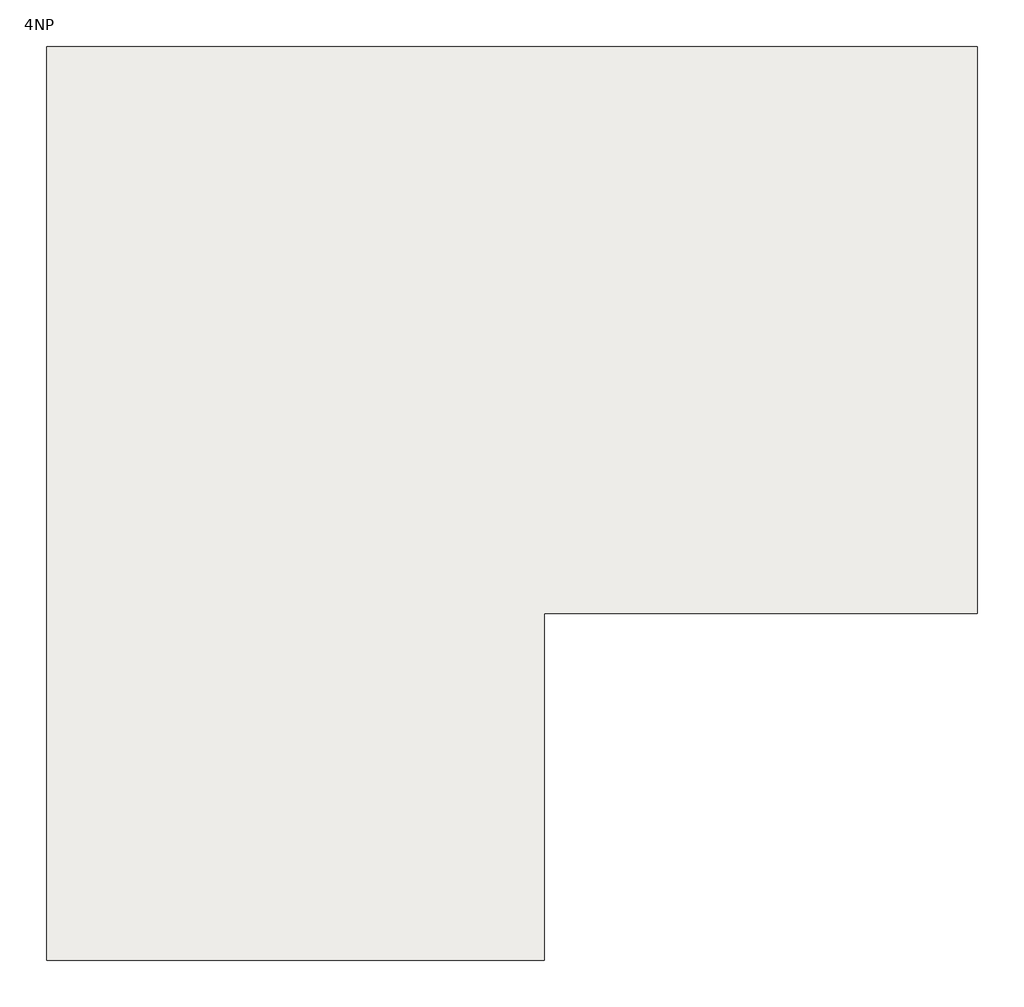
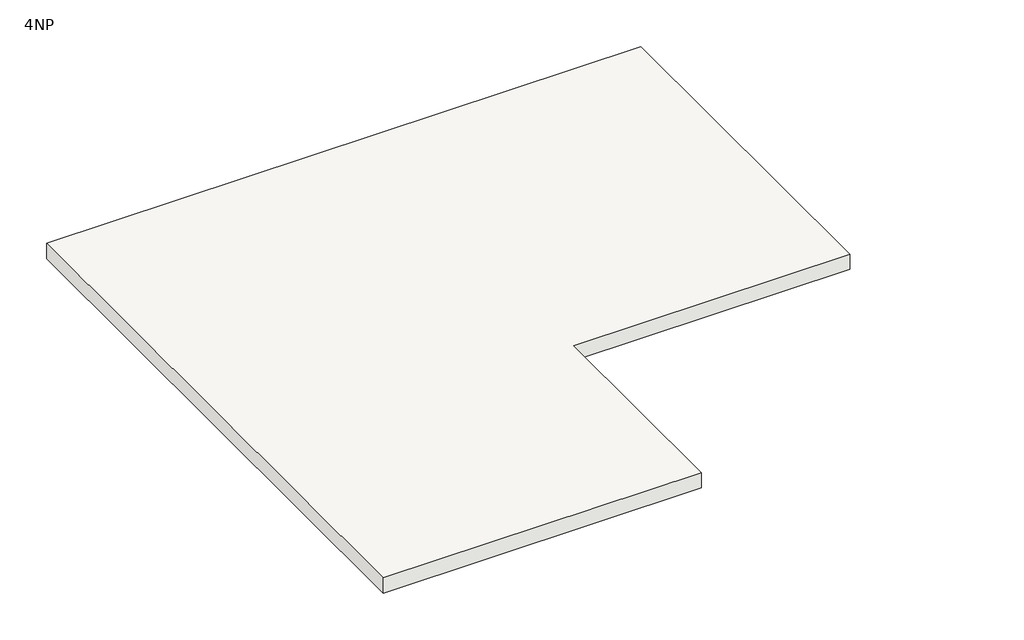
# One storey: 1 roof.
"""IFC4 building model written with IfcOpenShell, lengths in millimetres."""

from ifc_helpers import new_model, si_unit, frame, origin, place, context, project, spatial, polyline, outline, extrude, element, save

model = new_model("IFC4")

# Units and contexts
model_context = context("Model", 3, world=origin())
ifc_project = project(units=[si_unit("LENGTHUNIT", "METRE", prefix="MILLI")], contexts=[model_context])

# Site, building, storey
site = spatial("IfcSite", under=ifc_project)
building = spatial("IfcBuilding", under=site)
storey = spatial("IfcBuildingStorey", under=building, Name="4NP", Elevation=12000.0)

# Roof
placement = place(None, origin())
element("IfcRoof", 1, ObjectType="Generic - 400mm", at=placement, inside=storey, context=model_context, shape_type="SweptSolid", body=[
    extrude(outline(polyline([(-7530.3077176, 10061.6003657), (7219.6922824, 10061.6003657), (7219.6922824, 1074.8026806), (357.3775179, 1074.8026806), (357.3775179, -4425.1973194), (-7530.3077176, -4425.1973194), (-7530.3077176, 10061.6003657)])), frame((0.0, 0.0, 12000.0), z_axis=(0.0, 0.0, 1.0), x_axis=(1.0, 0.0, 0.0)), (0.0, 0.0, 1.0), 400.0),
])

save(model, "model.ifc")
